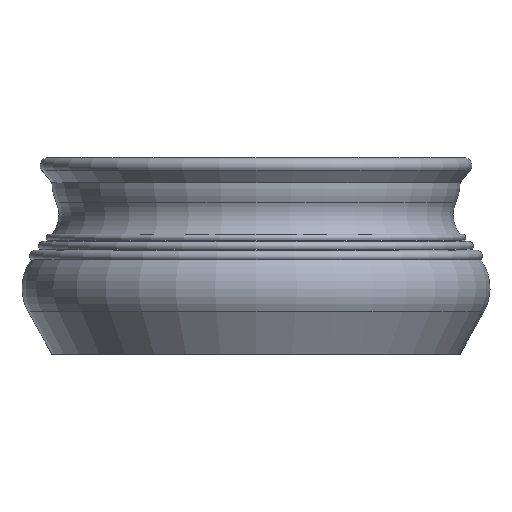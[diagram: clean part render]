
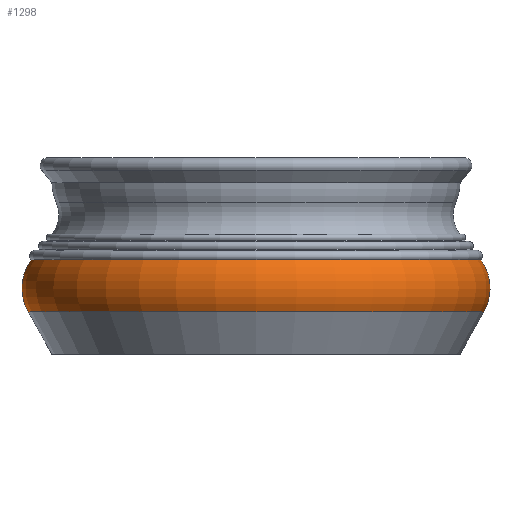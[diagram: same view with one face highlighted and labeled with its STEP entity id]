
A CAD part, front view. The second image highlights one B-rep face of the part: STEP entity #1298.
In plain terms, the highlighted toroidal (fillet/blend) face has major radius 118.45 mm and minor radius 30.55 mm.
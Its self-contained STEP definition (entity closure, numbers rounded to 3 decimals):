
#22=TOROIDAL_SURFACE('',#1475,118.45,30.55);
#164=FACE_OUTER_BOUND('',#280,.T.);
#280=EDGE_LOOP('',(#1187,#1188,#1189,#1190));
#517=CIRCLE('',#1439,145.128);
#539=CIRCLE('',#1476,143.152);
#540=CIRCLE('',#1477,30.55);
#642=VERTEX_POINT('',#2198);
#657=VERTEX_POINT('',#2257);
#805=EDGE_CURVE('',#642,#642,#517,.T.);
#834=EDGE_CURVE('',#657,#657,#539,.T.);
#835=EDGE_CURVE('',#657,#642,#540,.T.);
#1187=ORIENTED_EDGE('',*,*,#834,.F.);
#1188=ORIENTED_EDGE('',*,*,#835,.T.);
#1189=ORIENTED_EDGE('',*,*,#805,.T.);
#1190=ORIENTED_EDGE('',*,*,#835,.F.);
#1298=ADVANCED_FACE('',(#164),#22,.T.);
#1439=AXIS2_PLACEMENT_3D('',#2199,#1805,#1806);
#1475=AXIS2_PLACEMENT_3D('',#2256,#1884,#1885);
#1476=AXIS2_PLACEMENT_3D('',#2258,#1886,#1887);
#1477=AXIS2_PLACEMENT_3D('',#2259,#1888,#1889);
#1805=DIRECTION('center_axis',(0.,0.,1.));
#1806=DIRECTION('ref_axis',(1.,0.,0.));
#1884=DIRECTION('center_axis',(0.,0.,1.));
#1885=DIRECTION('ref_axis',(1.,0.,0.));
#1886=DIRECTION('center_axis',(0.,0.,1.));
#1887=DIRECTION('ref_axis',(1.,0.,0.));
#1888=DIRECTION('center_axis',(0.,-1.,0.));
#1889=DIRECTION('ref_axis',(-1.,0.,0.));
#2198=CARTESIAN_POINT('',(-145.128,0.,27.115));
#2199=CARTESIAN_POINT('Origin',(0.,0.,27.115));
#2256=CARTESIAN_POINT('Origin',(0.,0.,42.));
#2257=CARTESIAN_POINT('',(-143.152,0.,59.976));
#2258=CARTESIAN_POINT('Origin',(0.,0.,59.976));
#2259=CARTESIAN_POINT('Origin',(-118.45,0.,
42.));
